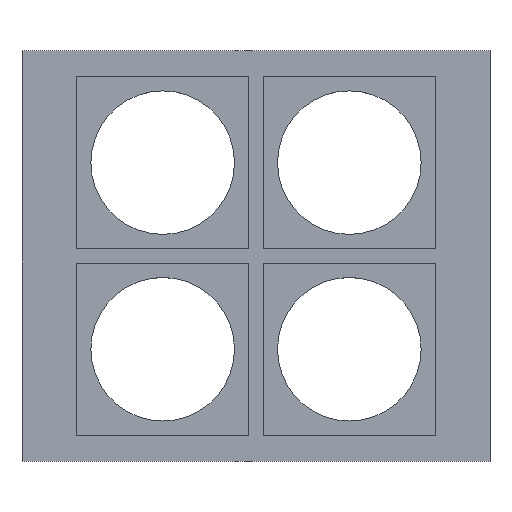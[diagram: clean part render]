
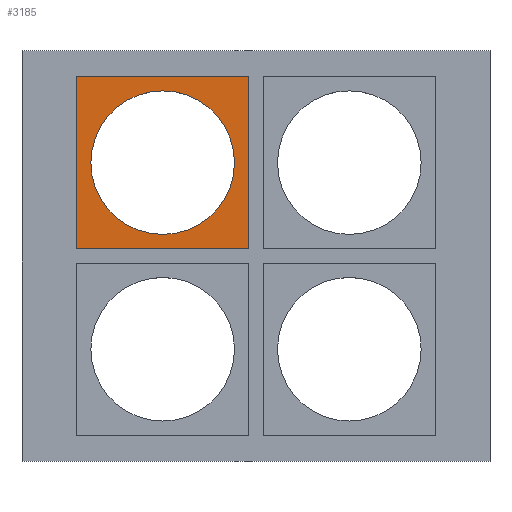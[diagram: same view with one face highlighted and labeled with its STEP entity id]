
A CAD part, top view. The second image highlights one B-rep face of the part: STEP entity #3185.
In plain terms, the highlighted planar face has unit normal (0, 0, 1).
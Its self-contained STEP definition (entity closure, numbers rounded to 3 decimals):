
#2996 = VERTEX_POINT('',#2997);
#2997 = CARTESIAN_POINT('',(-125.,145.,741.));
#3004 = PLANE('',#3005);
#3005 = AXIS2_PLACEMENT_3D('',#3006,#3007,#3008);
#3006 = CARTESIAN_POINT('',(-125.,145.,738.));
#3007 = DIRECTION('',(1.,0.,0.));
#3008 = DIRECTION('',(0.,0.,1.));
#3016 = PLANE('',#3017);
#3017 = AXIS2_PLACEMENT_3D('',#3018,#3019,#3020);
#3018 = CARTESIAN_POINT('',(-125.,145.,738.));
#3019 = DIRECTION('',(0.,1.,0.));
#3020 = DIRECTION('',(0.,0.,1.));
#3057 = VERTEX_POINT('',#3058);
#3058 = CARTESIAN_POINT('',(-125.,265.,741.));
#3072 = PLANE('',#3073);
#3073 = AXIS2_PLACEMENT_3D('',#3074,#3075,#3076);
#3074 = CARTESIAN_POINT('',(-125.,265.,738.));
#3075 = DIRECTION('',(0.,1.,0.));
#3076 = DIRECTION('',(0.,0.,1.));
#3084 = EDGE_CURVE('',#2996,#3057,#3085,.T.);
#3085 = SURFACE_CURVE('',#3086,(#3090,#3097),.PCURVE_S1.);
#3086 = LINE('',#3087,#3088);
#3087 = CARTESIAN_POINT('',(-125.,145.,741.));
#3088 = VECTOR('',#3089,1.);
#3089 = DIRECTION('',(0.,1.,0.));
#3090 = PCURVE('',#3004,#3091);
#3091 = DEFINITIONAL_REPRESENTATION('',(#3092),#3096);
#3092 = LINE('',#3093,#3094);
#3093 = CARTESIAN_POINT('',(3.,0.));
#3094 = VECTOR('',#3095,1.);
#3095 = DIRECTION('',(0.,-1.));
#3096 = ( GEOMETRIC_REPRESENTATION_CONTEXT(2) 
PARAMETRIC_REPRESENTATION_CONTEXT() REPRESENTATION_CONTEXT('2D SPACE',''
  ) );
#3097 = PCURVE('',#3098,#3103);
#3098 = PLANE('',#3099);
#3099 = AXIS2_PLACEMENT_3D('',#3100,#3101,#3102);
#3100 = CARTESIAN_POINT('',(-125.,145.,741.));
#3101 = DIRECTION('',(0.,0.,1.));
#3102 = DIRECTION('',(1.,0.,0.));
#3103 = DEFINITIONAL_REPRESENTATION('',(#3104),#3108);
#3104 = LINE('',#3105,#3106);
#3105 = CARTESIAN_POINT('',(0.,0.));
#3106 = VECTOR('',#3107,1.);
#3107 = DIRECTION('',(0.,1.));
#3108 = ( GEOMETRIC_REPRESENTATION_CONTEXT(2) 
PARAMETRIC_REPRESENTATION_CONTEXT() REPRESENTATION_CONTEXT('2D SPACE',''
  ) );
#3137 = EDGE_CURVE('',#2996,#3138,#3140,.T.);
#3138 = VERTEX_POINT('',#3139);
#3139 = CARTESIAN_POINT('',(-5.,145.,741.));
#3140 = SURFACE_CURVE('',#3141,(#3145,#3152),.PCURVE_S1.);
#3141 = LINE('',#3142,#3143);
#3142 = CARTESIAN_POINT('',(-125.,145.,741.));
#3143 = VECTOR('',#3144,1.);
#3144 = DIRECTION('',(1.,0.,0.));
#3145 = PCURVE('',#3016,#3146);
#3146 = DEFINITIONAL_REPRESENTATION('',(#3147),#3151);
#3147 = LINE('',#3148,#3149);
#3148 = CARTESIAN_POINT('',(3.,0.));
#3149 = VECTOR('',#3150,1.);
#3150 = DIRECTION('',(0.,1.));
#3151 = ( GEOMETRIC_REPRESENTATION_CONTEXT(2) 
PARAMETRIC_REPRESENTATION_CONTEXT() REPRESENTATION_CONTEXT('2D SPACE',''
  ) );
#3152 = PCURVE('',#3098,#3153);
#3153 = DEFINITIONAL_REPRESENTATION('',(#3154),#3158);
#3154 = LINE('',#3155,#3156);
#3155 = CARTESIAN_POINT('',(0.,0.));
#3156 = VECTOR('',#3157,1.);
#3157 = DIRECTION('',(1.,0.));
#3158 = ( GEOMETRIC_REPRESENTATION_CONTEXT(2) 
PARAMETRIC_REPRESENTATION_CONTEXT() REPRESENTATION_CONTEXT('2D SPACE',''
  ) );
#3174 = PLANE('',#3175);
#3175 = AXIS2_PLACEMENT_3D('',#3176,#3177,#3178);
#3176 = CARTESIAN_POINT('',(-5.,145.,738.));
#3177 = DIRECTION('',(1.,0.,0.));
#3178 = DIRECTION('',(0.,0.,1.));
#3185 = ADVANCED_FACE('',(#3186,#3234),#3098,.T.);
#3186 = FACE_BOUND('',#3187,.T.);
#3187 = EDGE_LOOP('',(#3188,#3189,#3190,#3213));
#3188 = ORIENTED_EDGE('',*,*,#3084,.F.);
#3189 = ORIENTED_EDGE('',*,*,#3137,.T.);
#3190 = ORIENTED_EDGE('',*,*,#3191,.T.);
#3191 = EDGE_CURVE('',#3138,#3192,#3194,.T.);
#3192 = VERTEX_POINT('',#3193);
#3193 = CARTESIAN_POINT('',(-5.,265.,741.));
#3194 = SURFACE_CURVE('',#3195,(#3199,#3206),.PCURVE_S1.);
#3195 = LINE('',#3196,#3197);
#3196 = CARTESIAN_POINT('',(-5.,145.,741.));
#3197 = VECTOR('',#3198,1.);
#3198 = DIRECTION('',(0.,1.,0.));
#3199 = PCURVE('',#3098,#3200);
#3200 = DEFINITIONAL_REPRESENTATION('',(#3201),#3205);
#3201 = LINE('',#3202,#3203);
#3202 = CARTESIAN_POINT('',(120.,0.));
#3203 = VECTOR('',#3204,1.);
#3204 = DIRECTION('',(0.,1.));
#3205 = ( GEOMETRIC_REPRESENTATION_CONTEXT(2) 
PARAMETRIC_REPRESENTATION_CONTEXT() REPRESENTATION_CONTEXT('2D SPACE',''
  ) );
#3206 = PCURVE('',#3174,#3207);
#3207 = DEFINITIONAL_REPRESENTATION('',(#3208),#3212);
#3208 = LINE('',#3209,#3210);
#3209 = CARTESIAN_POINT('',(3.,0.));
#3210 = VECTOR('',#3211,1.);
#3211 = DIRECTION('',(0.,-1.));
#3212 = ( GEOMETRIC_REPRESENTATION_CONTEXT(2) 
PARAMETRIC_REPRESENTATION_CONTEXT() REPRESENTATION_CONTEXT('2D SPACE',''
  ) );
#3213 = ORIENTED_EDGE('',*,*,#3214,.F.);
#3214 = EDGE_CURVE('',#3057,#3192,#3215,.T.);
#3215 = SURFACE_CURVE('',#3216,(#3220,#3227),.PCURVE_S1.);
#3216 = LINE('',#3217,#3218);
#3217 = CARTESIAN_POINT('',(-125.,265.,741.));
#3218 = VECTOR('',#3219,1.);
#3219 = DIRECTION('',(1.,0.,0.));
#3220 = PCURVE('',#3098,#3221);
#3221 = DEFINITIONAL_REPRESENTATION('',(#3222),#3226);
#3222 = LINE('',#3223,#3224);
#3223 = CARTESIAN_POINT('',(0.,120.));
#3224 = VECTOR('',#3225,1.);
#3225 = DIRECTION('',(1.,0.));
#3226 = ( GEOMETRIC_REPRESENTATION_CONTEXT(2) 
PARAMETRIC_REPRESENTATION_CONTEXT() REPRESENTATION_CONTEXT('2D SPACE',''
  ) );
#3227 = PCURVE('',#3072,#3228);
#3228 = DEFINITIONAL_REPRESENTATION('',(#3229),#3233);
#3229 = LINE('',#3230,#3231);
#3230 = CARTESIAN_POINT('',(3.,0.));
#3231 = VECTOR('',#3232,1.);
#3232 = DIRECTION('',(0.,1.));
#3233 = ( GEOMETRIC_REPRESENTATION_CONTEXT(2) 
PARAMETRIC_REPRESENTATION_CONTEXT() REPRESENTATION_CONTEXT('2D SPACE',''
  ) );
#3234 = FACE_BOUND('',#3235,.T.);
#3235 = EDGE_LOOP('',(#3236));
#3236 = ORIENTED_EDGE('',*,*,#3237,.T.);
#3237 = EDGE_CURVE('',#3238,#3238,#3240,.T.);
#3238 = VERTEX_POINT('',#3239);
#3239 = CARTESIAN_POINT('',(-15.,205.,741.));
#3240 = SURFACE_CURVE('',#3241,(#3246,#3257),.PCURVE_S1.);
#3241 = CIRCLE('',#3242,50.);
#3242 = AXIS2_PLACEMENT_3D('',#3243,#3244,#3245);
#3243 = CARTESIAN_POINT('',(-65.,205.,741.));
#3244 = DIRECTION('',(0.,0.,-1.));
#3245 = DIRECTION('',(1.,0.,0.));
#3246 = PCURVE('',#3098,#3247);
#3247 = DEFINITIONAL_REPRESENTATION('',(#3248),#3256);
#3248 = ( BOUNDED_CURVE() B_SPLINE_CURVE(2,(#3249,#3250,#3251,#3252,
#3253,#3254,#3255),.UNSPECIFIED.,.T.,.F.) B_SPLINE_CURVE_WITH_KNOTS((1,2
    ,2,2,2,1),(-2.094,0.,2.094,4.189,
6.283,8.378),.UNSPECIFIED.) CURVE() 
GEOMETRIC_REPRESENTATION_ITEM() RATIONAL_B_SPLINE_CURVE((1.,0.5,1.,0.5,
1.,0.5,1.)) REPRESENTATION_ITEM('') );
#3249 = CARTESIAN_POINT('',(110.,60.));
#3250 = CARTESIAN_POINT('',(110.,-26.603));
#3251 = CARTESIAN_POINT('',(35.,16.699));
#3252 = CARTESIAN_POINT('',(-40.,60.));
#3253 = CARTESIAN_POINT('',(35.,103.301));
#3254 = CARTESIAN_POINT('',(110.,146.603));
#3255 = CARTESIAN_POINT('',(110.,60.));
#3256 = ( GEOMETRIC_REPRESENTATION_CONTEXT(2) 
PARAMETRIC_REPRESENTATION_CONTEXT() REPRESENTATION_CONTEXT('2D SPACE',''
  ) );
#3257 = PCURVE('',#3258,#3263);
#3258 = CYLINDRICAL_SURFACE('',#3259,50.);
#3259 = AXIS2_PLACEMENT_3D('',#3260,#3261,#3262);
#3260 = CARTESIAN_POINT('',(-65.,205.,737.));
#3261 = DIRECTION('',(-0.,-0.,-1.));
#3262 = DIRECTION('',(1.,0.,0.));
#3263 = DEFINITIONAL_REPRESENTATION('',(#3264),#3268);
#3264 = LINE('',#3265,#3266);
#3265 = CARTESIAN_POINT('',(-6.283,-4.));
#3266 = VECTOR('',#3267,1.);
#3267 = DIRECTION('',(1.,-0.));
#3268 = ( GEOMETRIC_REPRESENTATION_CONTEXT(2) 
PARAMETRIC_REPRESENTATION_CONTEXT() REPRESENTATION_CONTEXT('2D SPACE',''
  ) );
